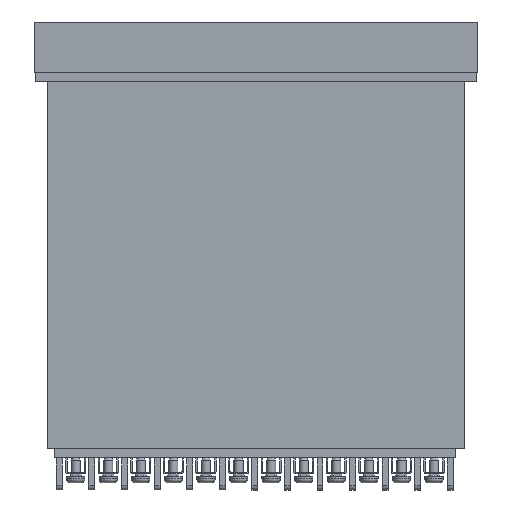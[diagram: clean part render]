
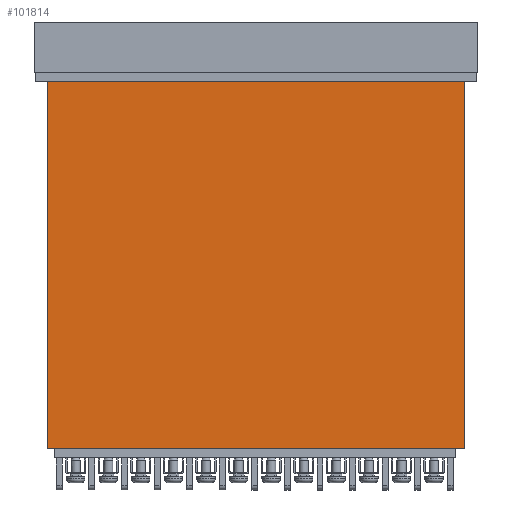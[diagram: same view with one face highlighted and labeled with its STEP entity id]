
A CAD part, front view. The second image highlights one B-rep face of the part: STEP entity #101814.
In plain terms, the highlighted planar face has unit normal (0, -1, 0).
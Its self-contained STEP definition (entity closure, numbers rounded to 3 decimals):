
#1466 = VECTOR ( 'NONE', #52735, 1000. ) ;
#2449 = DIRECTION ( 'NONE',  ( 0., 1., 0. ) ) ;
#2906 = CARTESIAN_POINT ( 'NONE',  ( 28.584, 9.098, 25.544 ) ) ;
#3368 = CARTESIAN_POINT ( 'NONE',  ( -62.416, 9.098, 25.544 ) ) ;
#6001 = VECTOR ( 'NONE', #55840, 1000. ) ;
#8212 = CARTESIAN_POINT ( 'NONE',  ( 28.584, 9.098, 25.544 ) ) ;
#12257 = CARTESIAN_POINT ( 'NONE',  ( -62.416, 9.098, -54.456 ) ) ;
#12882 = LINE ( 'NONE', #2906, #6001 ) ;
#15290 = EDGE_CURVE ( 'NONE', #98785, #84717, #85626, .T. ) ;
#18878 = VERTEX_POINT ( 'NONE', #8212 ) ;
#20515 = ORIENTED_EDGE ( 'NONE', *, *, #62470, .T. ) ;
#21376 = CARTESIAN_POINT ( 'NONE',  ( 28.584, 9.098, -54.456 ) ) ;
#22018 = LINE ( 'NONE', #22593, #107003 ) ;
#22593 = CARTESIAN_POINT ( 'NONE',  ( 28.584, 9.098, -54.456 ) ) ;
#26338 = EDGE_LOOP ( 'NONE', ( #20515, #102207, #79676, #45406 ) ) ;
#27891 = EDGE_CURVE ( 'NONE', #84717, #103440, #104793, .T. ) ;
#28949 = EDGE_CURVE ( 'NONE', #98785, #18878, #22018, .T. ) ;
#36242 = DIRECTION ( 'NONE',  ( 0., 0., 1. ) ) ;
#38805 = DIRECTION ( 'NONE',  ( 0., 0., 1. ) ) ;
#43033 = CARTESIAN_POINT ( 'NONE',  ( -62.416, 9.098, -54.456 ) ) ;
#45406 = ORIENTED_EDGE ( 'NONE', *, *, #28949, .T. ) ;
#50443 = PLANE ( 'NONE',  #96656 ) ;
#52636 = CARTESIAN_POINT ( 'NONE',  ( 28.584, 9.098, -54.456 ) ) ;
#52735 = DIRECTION ( 'NONE',  ( -1., 0., 0. ) ) ;
#55840 = DIRECTION ( 'NONE',  ( -1., 0., 0. ) ) ;
#62470 = EDGE_CURVE ( 'NONE', #18878, #103440, #12882, .T. ) ;
#67147 = FACE_OUTER_BOUND ( 'NONE', #26338, .T. ) ;
#79676 = ORIENTED_EDGE ( 'NONE', *, *, #15290, .F. ) ;
#84717 = VERTEX_POINT ( 'NONE', #43033 ) ;
#85626 = LINE ( 'NONE', #86735, #1466 ) ;
#86735 = CARTESIAN_POINT ( 'NONE',  ( 28.584, 9.098, -54.456 ) ) ;
#94446 = DIRECTION ( 'NONE',  ( 1., 0., 0. ) ) ;
#96656 = AXIS2_PLACEMENT_3D ( 'NONE', #52636, #2449, #94446 ) ;
#98785 = VERTEX_POINT ( 'NONE', #21376 ) ;
#101814 = ADVANCED_FACE ( 'NONE', ( #67147 ), #50443, .F. ) ;
#102207 = ORIENTED_EDGE ( 'NONE', *, *, #27891, .F. ) ;
#103440 = VERTEX_POINT ( 'NONE', #3368 ) ;
#104793 = LINE ( 'NONE', #12257, #108599 ) ;
#107003 = VECTOR ( 'NONE', #38805, 1000. ) ;
#108599 = VECTOR ( 'NONE', #36242, 1000. ) ;
